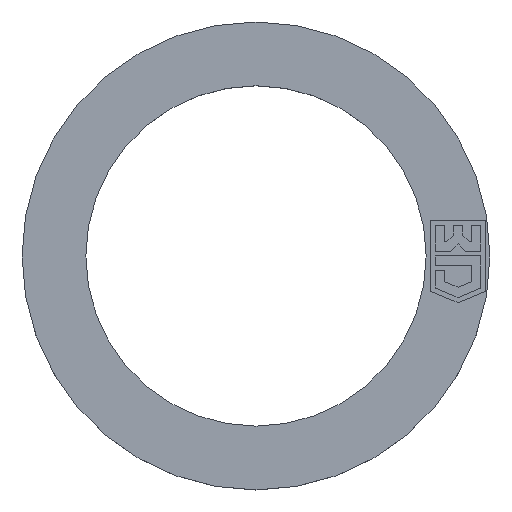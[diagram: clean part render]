
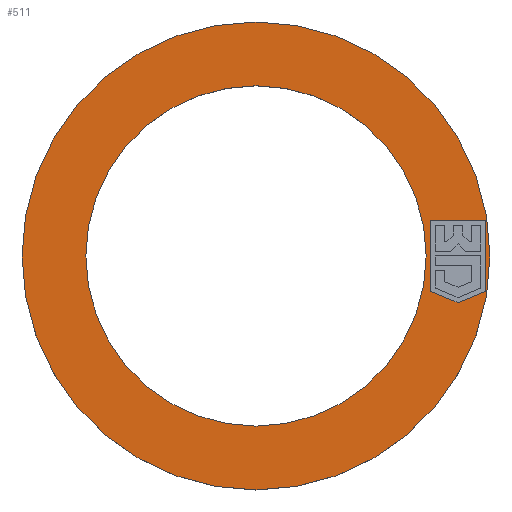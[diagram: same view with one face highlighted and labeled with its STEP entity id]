
A CAD part, top view. The second image highlights one B-rep face of the part: STEP entity #511.
In plain terms, the highlighted planar face has unit normal (0, 0, 1).
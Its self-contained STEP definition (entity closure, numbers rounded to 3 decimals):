
#468 = EDGE_CURVE ( 'NONE', #469, #470, #1091, .T. ) ;
#469 = VERTEX_POINT ( 'NONE', #1087 ) ;
#470 = VERTEX_POINT ( 'NONE', #1086 ) ;
#475 = ORIENTED_EDGE ( 'NONE', *, *, #517, .T. ) ;
#476 = EDGE_LOOP ( 'NONE', ( #477, #491, #502, #505, #508 ) ) ;
#477 = ORIENTED_EDGE ( 'NONE', *, *, #488, .T. ) ;
#488 = EDGE_CURVE ( 'NONE', #489, #490, #1024, .T. ) ;
#489 = VERTEX_POINT ( 'NONE', #1020 ) ;
#490 = VERTEX_POINT ( 'NONE', #1019 ) ;
#491 = ORIENTED_EDGE ( 'NONE', *, *, #492, .T. ) ;
#492 = EDGE_CURVE ( 'NONE', #490, #493, #1018, .T. ) ;
#493 = VERTEX_POINT ( 'NONE', #1014 ) ;
#499 = EDGE_LOOP ( 'NONE', ( #500, #475 ) ) ;
#500 = ORIENTED_EDGE ( 'NONE', *, *, #501, .T. ) ;
#501 = EDGE_CURVE ( 'NONE', #519, #518, #1124, .T. ) ;
#502 = ORIENTED_EDGE ( 'NONE', *, *, #503, .T. ) ;
#503 = EDGE_CURVE ( 'NONE', #493, #504, #1115, .T. ) ;
#504 = VERTEX_POINT ( 'NONE', #1111 ) ;
#505 = ORIENTED_EDGE ( 'NONE', *, *, #506, .T. ) ;
#506 = EDGE_CURVE ( 'NONE', #504, #507, #618, .T. ) ;
#507 = VERTEX_POINT ( 'NONE', #1302 ) ;
#508 = ORIENTED_EDGE ( 'NONE', *, *, #509, .T. ) ;
#509 = EDGE_CURVE ( 'NONE', #507, #489, #1306, .T. ) ;
#511 = ADVANCED_FACE ( 'NONE', ( #1394, #1393, #1392 ), #1347, .T. ) ;
#512 = ORIENTED_EDGE ( 'NONE', *, *, #468, .F. ) ;
#513 = ORIENTED_EDGE ( 'NONE', *, *, #514, .F. ) ;
#514 = EDGE_CURVE ( 'NONE', #470, #469, #1341, .T. ) ;
#517 = EDGE_CURVE ( 'NONE', #518, #519, #1368, .T. ) ;
#518 = VERTEX_POINT ( 'NONE', #1364 ) ;
#519 = VERTEX_POINT ( 'NONE', #1363 ) ;
#528 = EDGE_LOOP ( 'NONE', ( #512, #513 ) ) ;
#618 = LINE ( 'NONE', #706, #772 ) ;
#706 = CARTESIAN_POINT ( 'NONE',  ( 4.1, 0.828, 0.8 ) ) ;
#769 = DIRECTION ( 'NONE',  ( 1., 0., 0. ) ) ;
#772 = VECTOR ( 'NONE', #769, 1000. ) ;
#1014 = CARTESIAN_POINT ( 'NONE',  ( 4.1, -0.829, 0.8 ) ) ;
#1015 = DIRECTION ( 'NONE',  ( -0.924, 0.383, 0. ) ) ;
#1016 = VECTOR ( 'NONE', #1015, 1000. ) ;
#1017 = CARTESIAN_POINT ( 'NONE',  ( 4.75, -1.098, 0.8 ) ) ;
#1018 = LINE ( 'NONE', #1017, #1016 ) ;
#1019 = CARTESIAN_POINT ( 'NONE',  ( 4.75, -1.098, 0.8 ) ) ;
#1020 = CARTESIAN_POINT ( 'NONE',  ( 5.4, -0.829, 0.8 ) ) ;
#1021 = DIRECTION ( 'NONE',  ( -0.924, -0.383, 0. ) ) ;
#1022 = VECTOR ( 'NONE', #1021, 1000. ) ;
#1023 = CARTESIAN_POINT ( 'NONE',  ( 4.75, -1.098, 0.8 ) ) ;
#1024 = LINE ( 'NONE', #1023, #1022 ) ;
#1086 = CARTESIAN_POINT ( 'NONE',  ( 4., 0., 0.8 ) ) ;
#1087 = CARTESIAN_POINT ( 'NONE',  ( -4., 0., 0.8 ) ) ;
#1088 = DIRECTION ( 'NONE',  ( 1., 0., 0. ) ) ;
#1089 = DIRECTION ( 'NONE',  ( 0., 0., 1. ) ) ;
#1090 = AXIS2_PLACEMENT_3D ( 'NONE', #1096, #1089, #1088 ) ;
#1091 = CIRCLE ( 'NONE', #1090, 4. ) ;
#1096 = CARTESIAN_POINT ( 'NONE',  ( 0., 0., 0.8 ) ) ;
#1111 = CARTESIAN_POINT ( 'NONE',  ( 4.1, 0.828, 0.8 ) ) ;
#1112 = DIRECTION ( 'NONE',  ( 0., 1., 0. ) ) ;
#1113 = VECTOR ( 'NONE', #1112, 1000. ) ;
#1114 = CARTESIAN_POINT ( 'NONE',  ( 4.1, -0.829, 0.8 ) ) ;
#1115 = LINE ( 'NONE', #1114, #1113 ) ;
#1116 = DIRECTION ( 'NONE',  ( 1., 0., 0. ) ) ;
#1117 = DIRECTION ( 'NONE',  ( 0., 0., 1. ) ) ;
#1118 = CARTESIAN_POINT ( 'NONE',  ( 0., 0., 0.8 ) ) ;
#1119 = AXIS2_PLACEMENT_3D ( 'NONE', #1118, #1117, #1116 ) ;
#1124 = CIRCLE ( 'NONE', #1119, 5.5 ) ;
#1302 = CARTESIAN_POINT ( 'NONE',  ( 5.4, 0.828, 0.8 ) ) ;
#1303 = DIRECTION ( 'NONE',  ( 0., -1., 0. ) ) ;
#1304 = VECTOR ( 'NONE', #1303, 1000. ) ;
#1305 = CARTESIAN_POINT ( 'NONE',  ( 5.4, 0.828, 0.8 ) ) ;
#1306 = LINE ( 'NONE', #1305, #1304 ) ;
#1337 = DIRECTION ( 'NONE',  ( 1., 0., 0. ) ) ;
#1338 = DIRECTION ( 'NONE',  ( 0., 0., 1. ) ) ;
#1339 = CARTESIAN_POINT ( 'NONE',  ( 0., 0., 0.8 ) ) ;
#1340 = AXIS2_PLACEMENT_3D ( 'NONE', #1339, #1338, #1337 ) ;
#1341 = CIRCLE ( 'NONE', #1340, 4. ) ;
#1342 = CARTESIAN_POINT ( 'NONE',  ( 0., 0., 0.8 ) ) ;
#1343 = DIRECTION ( 'NONE',  ( 1., 0., 0. ) ) ;
#1344 = DIRECTION ( 'NONE',  ( 0., 0., 1. ) ) ;
#1345 = CARTESIAN_POINT ( 'NONE',  ( 0., 0., 0.8 ) ) ;
#1346 = AXIS2_PLACEMENT_3D ( 'NONE', #1345, #1344, #1343 ) ;
#1347 = PLANE ( 'NONE',  #1346 ) ;
#1363 = CARTESIAN_POINT ( 'NONE',  ( -5.5, 0., 0.8 ) ) ;
#1364 = CARTESIAN_POINT ( 'NONE',  ( 5.5, 0., 0.8 ) ) ;
#1365 = DIRECTION ( 'NONE',  ( 1., 0., 0. ) ) ;
#1366 = DIRECTION ( 'NONE',  ( 0., 0., 1. ) ) ;
#1367 = AXIS2_PLACEMENT_3D ( 'NONE', #1342, #1366, #1365 ) ;
#1368 = CIRCLE ( 'NONE', #1367, 5.5 ) ;
#1392 = FACE_BOUND ( 'NONE', #476, .T. ) ;
#1393 = FACE_OUTER_BOUND ( 'NONE', #499, .T. ) ;
#1394 = FACE_BOUND ( 'NONE', #528, .T. ) ;
